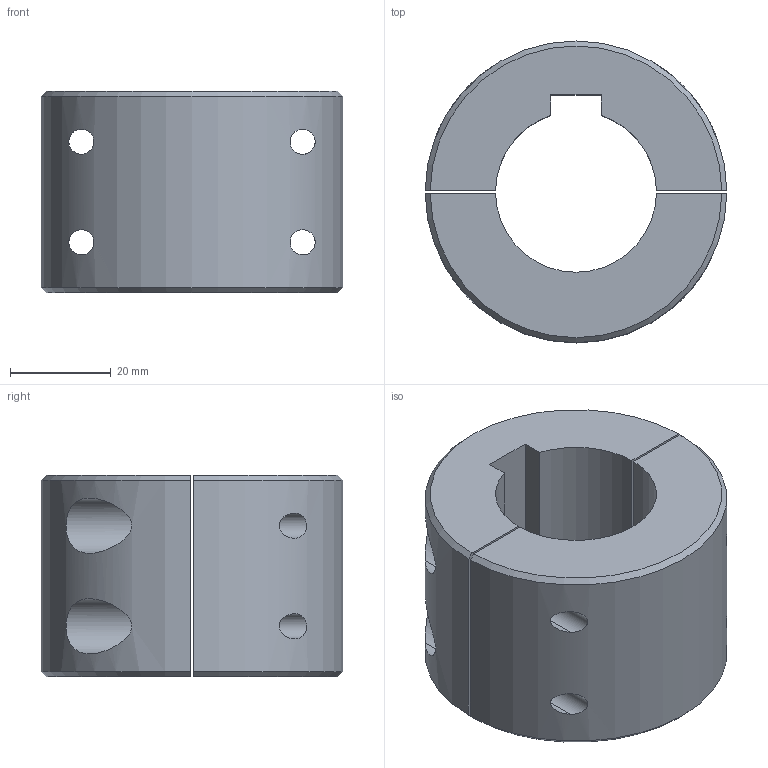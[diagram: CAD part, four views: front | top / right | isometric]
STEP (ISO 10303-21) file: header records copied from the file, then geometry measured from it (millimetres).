
FILE_DESCRIPTION (( 'STEP AP203' ), '1' );
FILE_NAME ('YWSD-2026-03-01=002 惕踡杶.STEP', '2026-07-24T07:43:04', ( 'Windows 蚚誧' ), ( '' ), 'SwSTEP 2.0', 'SolidWorks 2024', '' );
FILE_SCHEMA (( 'CONFIG_CONTROL_DESIGN' ));
Length unit declared in the file: millimetre
Products named in the file (1): YWSD-2026-03-01=002 抱紧套
Bounding box: 60 x 60 x 40 mm (x, y, z)
Volume: 70842.6 mm3; surface area: 20741.2 mm2
Topology: 2 solids, 2 shells, 48 faces, 120 edges, 80 vertices
Faces by surface type: cylinder 29, plane 15, cone 4
Entity records: 2117 total; most frequent: CARTESIAN_POINT 857, DIRECTION 240, ORIENTED_EDGE 240, EDGE_CURVE 120, AXIS2_PLACEMENT_3D 95, VERTEX_POINT 80, EDGE_LOOP 68, VECTOR 50
